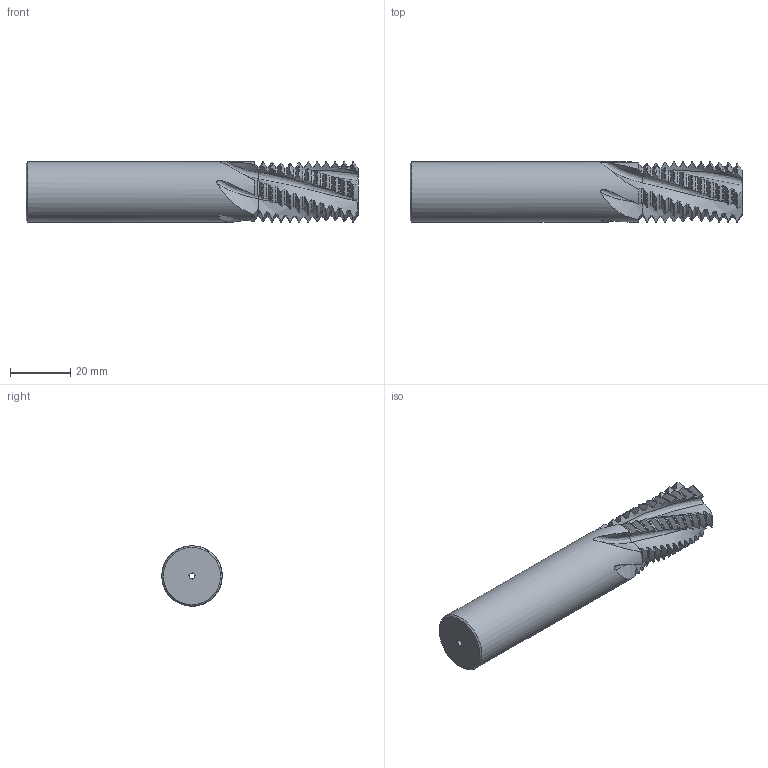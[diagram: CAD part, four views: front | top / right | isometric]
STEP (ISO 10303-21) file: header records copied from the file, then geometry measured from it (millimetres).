
FILE_DESCRIPTION(/* description */ (''),/* implementation_level */ '2;1');
FILE_NAME(/* name */ '00035659-STEP',/* time_stamp */ '2024-02-14T07:40:06+01:00',/* author */ (''),/* organization */ (''),/* preprocessor_version */ 'ST-DEVELOPER v16.5',/* originating_system */ 'HiCAD 2017 2201.0 Build 268',/* authorisation */ '');
FILE_SCHEMA (('AUTOMOTIVE_DESIGN { 1 0 10303 214 1 1 1 1 }'));
Products named in the file (2): Root; ROTATIONSTEIL_0
Assembly tree (1 placements, depth 2):
  Root
    ROTATIONSTEIL_0
Bounding box: 110 x 20 x 20 mm (x, y, z)
Volume: 29126.7 mm3; surface area: 9080.3 mm2
Topology: 1 solids, 1 shells, 371 faces, 1125 edges, 756 vertices
Faces by surface type: cone 116, cylinder 113, torus 110, bspline 30, plane 2
Full cylindrical faces by diameter (mm): 2 x1, 20 x1
Entity records: 39022 total; most frequent: CARTESIAN_POINT 19861, PRESENTATION_STYLE_ASSIGNMENT 2233, COLOUR_RGB 2233, DRAUGHTING_PRE_DEFINED_CURVE_FONT 2232, CURVE_STYLE 2232, OVER_RIDING_STYLED_ITEM 2232, ORIENTED_EDGE 2232, DIRECTION 1374
